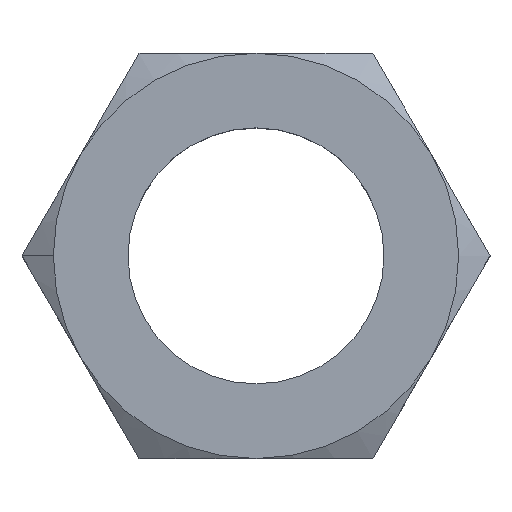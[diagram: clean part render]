
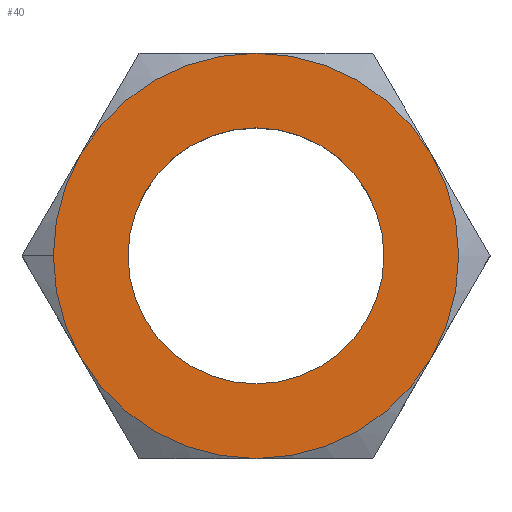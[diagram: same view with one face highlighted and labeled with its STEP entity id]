
A CAD part, top view. The second image highlights one B-rep face of the part: STEP entity #40.
In plain terms, the highlighted planar face has unit normal (0, 0, 1).
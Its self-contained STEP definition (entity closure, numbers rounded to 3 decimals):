
#40 = ADVANCED_FACE ( 'NONE', ( #236, #235 ), #234, .T. ) ;
#41 = EDGE_LOOP ( 'NONE', ( #50, #97 ) ) ;
#44 = VERTEX_POINT ( 'NONE', #406 ) ;
#47 = ORIENTED_EDGE ( 'NONE', *, *, #48, .T. ) ;
#48 = EDGE_CURVE ( 'NONE', #79, #126, #434, .T. ) ;
#50 = ORIENTED_EDGE ( 'NONE', *, *, #53, .F. ) ;
#53 = EDGE_CURVE ( 'NONE', #54, #55, #429, .T. ) ;
#54 = VERTEX_POINT ( 'NONE', #424 ) ;
#55 = VERTEX_POINT ( 'NONE', #423 ) ;
#60 = VERTEX_POINT ( 'NONE', #354 ) ;
#77 = EDGE_CURVE ( 'NONE', #78, #79, #259, .T. ) ;
#78 = VERTEX_POINT ( 'NONE', #254 ) ;
#79 = VERTEX_POINT ( 'NONE', #253 ) ;
#91 = ORIENTED_EDGE ( 'NONE', *, *, #92, .T. ) ;
#92 = EDGE_CURVE ( 'NONE', #60, #173, #277, .T. ) ;
#97 = ORIENTED_EDGE ( 'NONE', *, *, #98, .F. ) ;
#98 = EDGE_CURVE ( 'NONE', #55, #54, #267, .T. ) ;
#104 = ORIENTED_EDGE ( 'NONE', *, *, #105, .T. ) ;
#105 = EDGE_CURVE ( 'NONE', #173, #161, #614, .T. ) ;
#106 = ORIENTED_EDGE ( 'NONE', *, *, #107, .T. ) ;
#107 = EDGE_CURVE ( 'NONE', #161, #78, #469, .T. ) ;
#108 = ORIENTED_EDGE ( 'NONE', *, *, #77, .T. ) ;
#117 = EDGE_LOOP ( 'NONE', ( #118, #91, #104, #106, #108, #47, #212 ) ) ;
#118 = ORIENTED_EDGE ( 'NONE', *, *, #119, .T. ) ;
#119 = EDGE_CURVE ( 'NONE', #44, #60, #458, .T. ) ;
#126 = VERTEX_POINT ( 'NONE', #608 ) ;
#161 = VERTEX_POINT ( 'NONE', #579 ) ;
#173 = VERTEX_POINT ( 'NONE', #471 ) ;
#212 = ORIENTED_EDGE ( 'NONE', *, *, #213, .T. ) ;
#213 = EDGE_CURVE ( 'NONE', #126, #44, #764, .T. ) ;
#233 = AXIS2_PLACEMENT_3D ( 'NONE', #325, #324, #323 ) ;
#234 = PLANE ( 'NONE',  #233 ) ;
#235 = FACE_OUTER_BOUND ( 'NONE', #117, .T. ) ;
#236 = FACE_BOUND ( 'NONE', #41, .T. ) ;
#253 = CARTESIAN_POINT ( 'NONE',  ( -8.227, -4.75, 3. ) ) ;
#254 = CARTESIAN_POINT ( 'NONE',  ( -9.5, 0., 3. ) ) ;
#255 = DIRECTION ( 'NONE',  ( 1., 0., 0. ) ) ;
#256 = DIRECTION ( 'NONE',  ( 0., 0., 1. ) ) ;
#257 = CARTESIAN_POINT ( 'NONE',  ( 0., 0., 3. ) ) ;
#258 = AXIS2_PLACEMENT_3D ( 'NONE', #257, #256, #255 ) ;
#259 = CIRCLE ( 'NONE', #258, 9.5 ) ;
#267 = CIRCLE ( 'NONE', #348, 6. ) ;
#273 = DIRECTION ( 'NONE',  ( 1., 0., 0. ) ) ;
#274 = DIRECTION ( 'NONE',  ( 0., 0., 1. ) ) ;
#275 = CARTESIAN_POINT ( 'NONE',  ( 0., 0., 3. ) ) ;
#276 = AXIS2_PLACEMENT_3D ( 'NONE', #275, #274, #273 ) ;
#277 = CIRCLE ( 'NONE', #276, 9.5 ) ;
#323 = DIRECTION ( 'NONE',  ( 1., 0., 0. ) ) ;
#324 = DIRECTION ( 'NONE',  ( 0., 0., 1. ) ) ;
#325 = CARTESIAN_POINT ( 'NONE',  ( 5.485, 9.5, 3. ) ) ;
#345 = DIRECTION ( 'NONE',  ( 1., 0., 0. ) ) ;
#346 = DIRECTION ( 'NONE',  ( 0., 0., 1. ) ) ;
#347 = CARTESIAN_POINT ( 'NONE',  ( 0., 0., 3. ) ) ;
#348 = AXIS2_PLACEMENT_3D ( 'NONE', #347, #346, #345 ) ;
#354 = CARTESIAN_POINT ( 'NONE',  ( 8.227, 4.75, 3. ) ) ;
#406 = CARTESIAN_POINT ( 'NONE',  ( 8.227, -4.75, 3. ) ) ;
#423 = CARTESIAN_POINT ( 'NONE',  ( 6., 0., 3. ) ) ;
#424 = CARTESIAN_POINT ( 'NONE',  ( -6., 0., 3. ) ) ;
#425 = DIRECTION ( 'NONE',  ( 1., 0., 0. ) ) ;
#426 = DIRECTION ( 'NONE',  ( 0., 0., 1. ) ) ;
#427 = CARTESIAN_POINT ( 'NONE',  ( 0., 0., 3. ) ) ;
#428 = AXIS2_PLACEMENT_3D ( 'NONE', #427, #426, #425 ) ;
#429 = CIRCLE ( 'NONE', #428, 6. ) ;
#430 = DIRECTION ( 'NONE',  ( 1., 0., 0. ) ) ;
#431 = DIRECTION ( 'NONE',  ( 0., 0., 1. ) ) ;
#432 = CARTESIAN_POINT ( 'NONE',  ( 0., 0., 3. ) ) ;
#433 = AXIS2_PLACEMENT_3D ( 'NONE', #432, #431, #430 ) ;
#434 = CIRCLE ( 'NONE', #433, 9.5 ) ;
#446 = DIRECTION ( 'NONE',  ( 1., 0., 0. ) ) ;
#447 = DIRECTION ( 'NONE',  ( 0., 0., 1. ) ) ;
#448 = CARTESIAN_POINT ( 'NONE',  ( 0., 0., 3. ) ) ;
#449 = AXIS2_PLACEMENT_3D ( 'NONE', #448, #447, #446 ) ;
#458 = CIRCLE ( 'NONE', #449, 9.5 ) ;
#466 = DIRECTION ( 'NONE',  ( 1., 0., 0. ) ) ;
#467 = DIRECTION ( 'NONE',  ( 0., 0., 1. ) ) ;
#468 = AXIS2_PLACEMENT_3D ( 'NONE', #615, #467, #466 ) ;
#469 = CIRCLE ( 'NONE', #468, 9.5 ) ;
#471 = CARTESIAN_POINT ( 'NONE',  ( 0., 9.5, 3. ) ) ;
#579 = CARTESIAN_POINT ( 'NONE',  ( -8.227, 4.75, 3. ) ) ;
#608 = CARTESIAN_POINT ( 'NONE',  ( 0., -9.5, 3. ) ) ;
#610 = DIRECTION ( 'NONE',  ( 1., 0., 0. ) ) ;
#611 = DIRECTION ( 'NONE',  ( 0., 0., 1. ) ) ;
#612 = CARTESIAN_POINT ( 'NONE',  ( 0., 0., 3. ) ) ;
#613 = AXIS2_PLACEMENT_3D ( 'NONE', #612, #611, #610 ) ;
#614 = CIRCLE ( 'NONE', #613, 9.5 ) ;
#615 = CARTESIAN_POINT ( 'NONE',  ( 0., 0., 3. ) ) ;
#686 = DIRECTION ( 'NONE',  ( 1., 0., 0. ) ) ;
#687 = DIRECTION ( 'NONE',  ( 0., 0., 1. ) ) ;
#688 = CARTESIAN_POINT ( 'NONE',  ( 0., 0., 3. ) ) ;
#689 = AXIS2_PLACEMENT_3D ( 'NONE', #688, #687, #686 ) ;
#764 = CIRCLE ( 'NONE', #689, 9.5 ) ;
